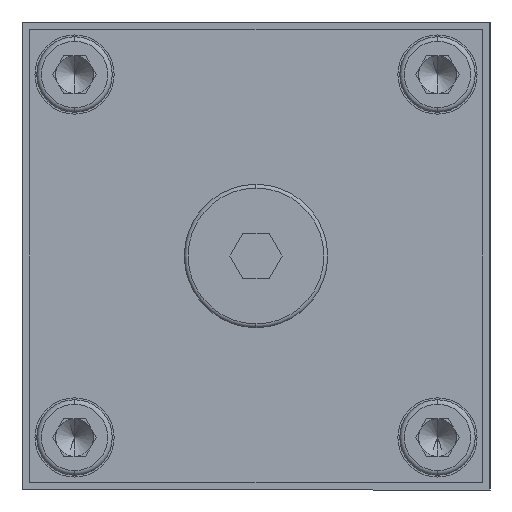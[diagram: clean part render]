
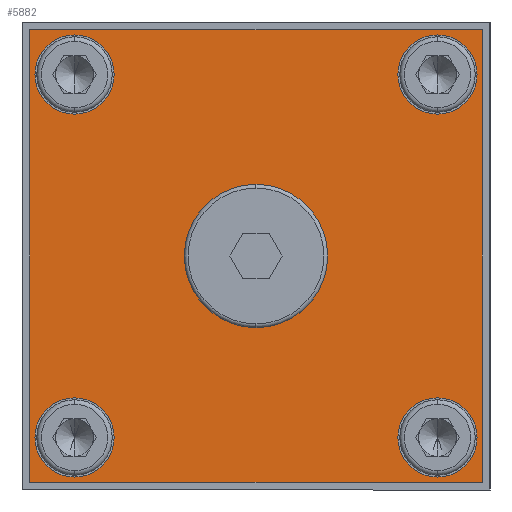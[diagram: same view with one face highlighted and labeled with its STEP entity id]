
A CAD part, left-side view. The second image highlights one B-rep face of the part: STEP entity #5882.
In plain terms, the highlighted planar face has unit normal (-1, 0, 0).
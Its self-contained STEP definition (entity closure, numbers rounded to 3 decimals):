
#103 = CIRCLE ( 'NONE', #6473, 5.25 ) ;
#299 = LINE ( 'NONE', #18352, #10814 ) ;
#346 = CARTESIAN_POINT ( 'NONE',  ( -17.8, -30., 30. ) ) ;
#413 = DIRECTION ( 'NONE',  ( 0., 0., 1. ) ) ;
#479 = EDGE_LOOP ( 'NONE', ( #20308, #18802, #18814, #25501 ) ) ;
#710 = AXIS2_PLACEMENT_3D ( 'NONE', #21965, #23973, #12130 ) ;
#771 = EDGE_CURVE ( 'NONE', #22906, #8722, #15299, .T. ) ;
#806 = DIRECTION ( 'NONE',  ( -1., 0., 0. ) ) ;
#967 = DIRECTION ( 'NONE',  ( 0., 0., 1. ) ) ;
#1488 = CARTESIAN_POINT ( 'NONE',  ( -17.8, -30., 30. ) ) ;
#1566 = VERTEX_POINT ( 'NONE', #6468 ) ;
#1586 = EDGE_CURVE ( 'NONE', #11478, #11574, #10337, .T. ) ;
#1798 = VERTEX_POINT ( 'NONE', #1488 ) ;
#1877 = CIRCLE ( 'NONE', #21109, 9.5 ) ;
#2149 = VERTEX_POINT ( 'NONE', #19598 ) ;
#2195 = ORIENTED_EDGE ( 'NONE', *, *, #3086, .F. ) ;
#2292 = CARTESIAN_POINT ( 'NONE',  ( -17.8, 0., 9.5 ) ) ;
#2668 = ORIENTED_EDGE ( 'NONE', *, *, #5835, .F. ) ;
#2934 = EDGE_CURVE ( 'NONE', #6309, #2149, #7286, .T. ) ;
#2959 = DIRECTION ( 'NONE',  ( -1., 0., 0. ) ) ;
#3086 = EDGE_CURVE ( 'NONE', #8722, #22906, #8542, .T. ) ;
#3361 = DIRECTION ( 'NONE',  ( -1., 0., 0. ) ) ;
#3383 = DIRECTION ( 'NONE',  ( 0., 0., 1. ) ) ;
#3566 = FACE_BOUND ( 'NONE', #6013, .T. ) ;
#3643 = VERTEX_POINT ( 'NONE', #23281 ) ;
#3879 = CARTESIAN_POINT ( 'NONE',  ( -17.8, -24.04, 18.79 ) ) ;
#3880 = DIRECTION ( 'NONE',  ( -1., 0., 0. ) ) ;
#4386 = DIRECTION ( 'NONE',  ( -1., 0., 0. ) ) ;
#4710 = EDGE_LOOP ( 'NONE', ( #15589, #2668 ) ) ;
#4780 = EDGE_CURVE ( 'NONE', #23145, #12050, #22027, .T. ) ;
#5124 = ORIENTED_EDGE ( 'NONE', *, *, #12257, .F. ) ;
#5285 = VERTEX_POINT ( 'NONE', #24509 ) ;
#5541 = ORIENTED_EDGE ( 'NONE', *, *, #7236, .F. ) ;
#5825 = DIRECTION ( 'NONE',  ( -1., 0., 0. ) ) ;
#5835 = EDGE_CURVE ( 'NONE', #5285, #3643, #21241, .T. ) ;
#5882 = ADVANCED_FACE ( 'NONE', ( #18766, #24025, #8842, #13522, #3566, #8239 ), #25402, .T. ) ;
#6013 = EDGE_LOOP ( 'NONE', ( #22265, #7553 ) ) ;
#6244 = VECTOR ( 'NONE', #413, 1000. ) ;
#6309 = VERTEX_POINT ( 'NONE', #3879 ) ;
#6417 = VERTEX_POINT ( 'NONE', #20092 ) ;
#6468 = CARTESIAN_POINT ( 'NONE',  ( -17.8, -30., -30. ) ) ;
#6473 = AXIS2_PLACEMENT_3D ( 'NONE', #15767, #3880, #17778 ) ;
#6961 = LINE ( 'NONE', #346, #12278 ) ;
#7172 = CARTESIAN_POINT ( 'NONE',  ( -17.8, -30., -30. ) ) ;
#7236 = EDGE_CURVE ( 'NONE', #2149, #6309, #20124, .T. ) ;
#7286 = CIRCLE ( 'NONE', #13831, 5.25 ) ;
#7519 = EDGE_LOOP ( 'NONE', ( #5541, #13989 ) ) ;
#7553 = ORIENTED_EDGE ( 'NONE', *, *, #1586, .F. ) ;
#8239 = FACE_BOUND ( 'NONE', #4710, .T. ) ;
#8542 = CIRCLE ( 'NONE', #23931, 5.25 ) ;
#8722 = VERTEX_POINT ( 'NONE', #19391 ) ;
#8758 = CARTESIAN_POINT ( 'NONE',  ( -17.8, 24.04, 24.04 ) ) ;
#8774 = CARTESIAN_POINT ( 'NONE',  ( -17.8, -24.04, -24.04 ) ) ;
#8842 = FACE_BOUND ( 'NONE', #15907, .T. ) ;
#9261 = ORIENTED_EDGE ( 'NONE', *, *, #771, .F. ) ;
#9546 = EDGE_CURVE ( 'NONE', #1566, #23145, #18040, .T. ) ;
#10337 = CIRCLE ( 'NONE', #710, 5.25 ) ;
#10354 = DIRECTION ( 'NONE',  ( -1., 0., 0. ) ) ;
#10768 = DIRECTION ( 'NONE',  ( 0., 0., 1. ) ) ;
#10814 = VECTOR ( 'NONE', #16415, 1000. ) ;
#11457 = DIRECTION ( 'NONE',  ( -1., 0., 0. ) ) ;
#11478 = VERTEX_POINT ( 'NONE', #19970 ) ;
#11574 = VERTEX_POINT ( 'NONE', #23531 ) ;
#11636 = CARTESIAN_POINT ( 'NONE',  ( -17.8, 30., 30. ) ) ;
#11673 = AXIS2_PLACEMENT_3D ( 'NONE', #11636, #25500, #13637 ) ;
#12050 = VERTEX_POINT ( 'NONE', #13570 ) ;
#12130 = DIRECTION ( 'NONE',  ( 0., 0., 1. ) ) ;
#12214 = DIRECTION ( 'NONE',  ( 0., -1., 0. ) ) ;
#12257 = EDGE_CURVE ( 'NONE', #6417, #22250, #1877, .T. ) ;
#12278 = VECTOR ( 'NONE', #12214, 1000. ) ;
#12529 = AXIS2_PLACEMENT_3D ( 'NONE', #14808, #2959, #16812 ) ;
#12747 = CIRCLE ( 'NONE', #25149, 5.25 ) ;
#13522 = FACE_BOUND ( 'NONE', #7519, .T. ) ;
#13570 = CARTESIAN_POINT ( 'NONE',  ( -17.8, 30., 30. ) ) ;
#13598 = ORIENTED_EDGE ( 'NONE', *, *, #25689, .F. ) ;
#13637 = DIRECTION ( 'NONE',  ( 0., 0., 1. ) ) ;
#13831 = AXIS2_PLACEMENT_3D ( 'NONE', #15252, #3361, #17257 ) ;
#13989 = ORIENTED_EDGE ( 'NONE', *, *, #2934, .F. ) ;
#14252 = CARTESIAN_POINT ( 'NONE',  ( -17.8, 30., 30. ) ) ;
#14808 = CARTESIAN_POINT ( 'NONE',  ( -17.8, -24.04, 24.04 ) ) ;
#15252 = CARTESIAN_POINT ( 'NONE',  ( -17.8, -24.04, 24.04 ) ) ;
#15299 = CIRCLE ( 'NONE', #25420, 5.25 ) ;
#15437 = EDGE_CURVE ( 'NONE', #11574, #11478, #12747, .T. ) ;
#15589 = ORIENTED_EDGE ( 'NONE', *, *, #24554, .F. ) ;
#15767 = CARTESIAN_POINT ( 'NONE',  ( -17.8, 24.04, -24.04 ) ) ;
#15907 = EDGE_LOOP ( 'NONE', ( #9261, #2195 ) ) ;
#16285 = CARTESIAN_POINT ( 'NONE',  ( -17.8, -24.04, -24.04 ) ) ;
#16374 = CARTESIAN_POINT ( 'NONE',  ( -17.8, -24.04, -18.79 ) ) ;
#16415 = DIRECTION ( 'NONE',  ( 0., 0., -1. ) ) ;
#16812 = DIRECTION ( 'NONE',  ( 0., 0., 1. ) ) ;
#17257 = DIRECTION ( 'NONE',  ( 0., 0., 1. ) ) ;
#17721 = CARTESIAN_POINT ( 'NONE',  ( -17.8, 0., 0. ) ) ;
#17778 = DIRECTION ( 'NONE',  ( 0., 0., 1. ) ) ;
#18040 = LINE ( 'NONE', #7172, #23268 ) ;
#18352 = CARTESIAN_POINT ( 'NONE',  ( -17.8, -30., 30. ) ) ;
#18697 = EDGE_CURVE ( 'NONE', #1798, #1566, #299, .T. ) ;
#18766 = FACE_BOUND ( 'NONE', #24798, .T. ) ;
#18793 = AXIS2_PLACEMENT_3D ( 'NONE', #23313, #11457, #25322 ) ;
#18802 = ORIENTED_EDGE ( 'NONE', *, *, #4780, .F. ) ;
#18814 = ORIENTED_EDGE ( 'NONE', *, *, #9546, .F. ) ;
#19071 = DIRECTION ( 'NONE',  ( 0., 1., 0. ) ) ;
#19135 = CARTESIAN_POINT ( 'NONE',  ( -17.8, 30., -30. ) ) ;
#19391 = CARTESIAN_POINT ( 'NONE',  ( -17.8, -24.04, -29.29 ) ) ;
#19598 = CARTESIAN_POINT ( 'NONE',  ( -17.8, -24.04, 29.29 ) ) ;
#19710 = DIRECTION ( 'NONE',  ( 0., -1., 0. ) ) ;
#19970 = CARTESIAN_POINT ( 'NONE',  ( -17.8, 24.04, 18.79 ) ) ;
#20092 = CARTESIAN_POINT ( 'NONE',  ( -17.8, 0., -9.5 ) ) ;
#20124 = CIRCLE ( 'NONE', #12529, 5.25 ) ;
#20308 = ORIENTED_EDGE ( 'NONE', *, *, #21370, .F. ) ;
#20428 = CIRCLE ( 'NONE', #23784, 9.5 ) ;
#21109 = AXIS2_PLACEMENT_3D ( 'NONE', #22177, #10354, #24184 ) ;
#21241 = CIRCLE ( 'NONE', #18793, 5.25 ) ;
#21370 = EDGE_CURVE ( 'NONE', #12050, #1798, #6961, .T. ) ;
#21965 = CARTESIAN_POINT ( 'NONE',  ( -17.8, 24.04, 24.04 ) ) ;
#22027 = LINE ( 'NONE', #14252, #6244 ) ;
#22177 = CARTESIAN_POINT ( 'NONE',  ( -17.8, 0., 0. ) ) ;
#22250 = VERTEX_POINT ( 'NONE', #2292 ) ;
#22265 = ORIENTED_EDGE ( 'NONE', *, *, #15437, .F. ) ;
#22582 = DIRECTION ( 'NONE',  ( -1., 0., 0. ) ) ;
#22906 = VERTEX_POINT ( 'NONE', #16374 ) ;
#23145 = VERTEX_POINT ( 'NONE', #19135 ) ;
#23268 = VECTOR ( 'NONE', #19071, 1000. ) ;
#23281 = CARTESIAN_POINT ( 'NONE',  ( -17.8, 24.04, -18.79 ) ) ;
#23313 = CARTESIAN_POINT ( 'NONE',  ( -17.8, 24.04, -24.04 ) ) ;
#23531 = CARTESIAN_POINT ( 'NONE',  ( -17.8, 24.04, 29.29 ) ) ;
#23784 = AXIS2_PLACEMENT_3D ( 'NONE', #17721, #5825, #19710 ) ;
#23931 = AXIS2_PLACEMENT_3D ( 'NONE', #16285, #4386, #3383 ) ;
#23973 = DIRECTION ( 'NONE',  ( -1., 0., 0. ) ) ;
#24025 = FACE_OUTER_BOUND ( 'NONE', #479, .T. ) ;
#24184 = DIRECTION ( 'NONE',  ( 0., -1., 0. ) ) ;
#24509 = CARTESIAN_POINT ( 'NONE',  ( -17.8, 24.04, -29.29 ) ) ;
#24554 = EDGE_CURVE ( 'NONE', #3643, #5285, #103, .T. ) ;
#24798 = EDGE_LOOP ( 'NONE', ( #5124, #13598 ) ) ;
#25149 = AXIS2_PLACEMENT_3D ( 'NONE', #8758, #22582, #10768 ) ;
#25322 = DIRECTION ( 'NONE',  ( 0., 0., 1. ) ) ;
#25402 = PLANE ( 'NONE',  #11673 ) ;
#25420 = AXIS2_PLACEMENT_3D ( 'NONE', #8774, #806, #967 ) ;
#25500 = DIRECTION ( 'NONE',  ( -1., 0., 0. ) ) ;
#25501 = ORIENTED_EDGE ( 'NONE', *, *, #18697, .F. ) ;
#25689 = EDGE_CURVE ( 'NONE', #22250, #6417, #20428, .T. ) ;
